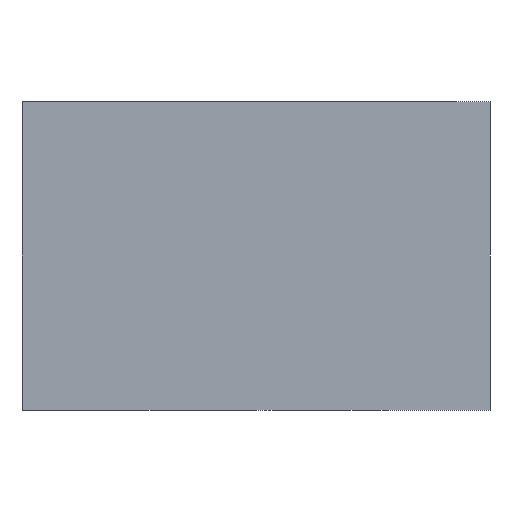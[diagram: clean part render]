
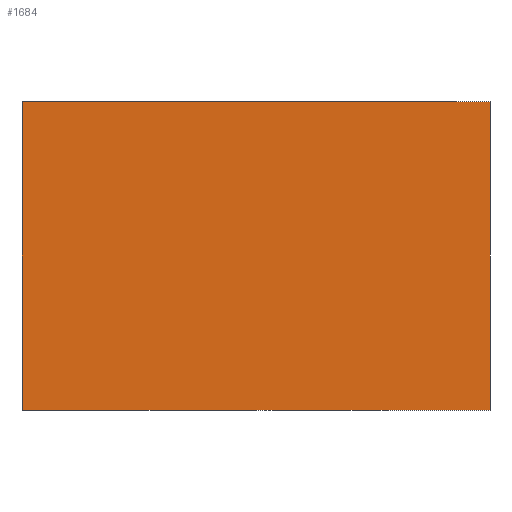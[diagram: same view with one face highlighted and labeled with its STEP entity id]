
A CAD part, front view. The second image highlights one B-rep face of the part: STEP entity #1684.
In plain terms, the highlighted planar face has unit normal (0, -1, 0).
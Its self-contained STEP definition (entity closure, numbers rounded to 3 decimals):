
#75=PLANE('',#1879);
#177=FACE_OUTER_BOUND('',#281,.T.);
#281=EDGE_LOOP('',(#1518,#1519,#1520,#1521));
#432=LINE('',#2909,#585);
#437=LINE('',#2917,#590);
#440=LINE('',#2925,#593);
#441=LINE('',#2926,#594);
#585=VECTOR('',#2355,10.);
#590=VECTOR('',#2362,10.);
#593=VECTOR('',#2371,10.);
#594=VECTOR('',#2372,10.);
#830=VERTEX_POINT('',#2905);
#832=VERTEX_POINT('',#2908);
#834=VERTEX_POINT('',#2916);
#836=VERTEX_POINT('',#2924);
#1064=EDGE_CURVE('',#832,#830,#432,.T.);
#1069=EDGE_CURVE('',#834,#832,#437,.T.);
#1072=EDGE_CURVE('',#836,#830,#440,.T.);
#1073=EDGE_CURVE('',#834,#836,#441,.T.);
#1518=ORIENTED_EDGE('',*,*,#1064,.T.);
#1519=ORIENTED_EDGE('',*,*,#1072,.F.);
#1520=ORIENTED_EDGE('',*,*,#1073,.F.);
#1521=ORIENTED_EDGE('',*,*,#1069,.T.);
#1684=ADVANCED_FACE('',(#177),#75,.T.);
#1879=AXIS2_PLACEMENT_3D('',#2923,#2369,#2370);
#2355=DIRECTION('',(-1.,0.,0.));
#2362=DIRECTION('',(0.,0.,1.));
#2369=DIRECTION('center_axis',(0.,-1.,0.));
#2370=DIRECTION('ref_axis',(0.,0.,-1.));
#2371=DIRECTION('',(0.,0.,1.));
#2372=DIRECTION('',(-1.,0.,0.));
#2905=CARTESIAN_POINT('',(-6.825,-10.,9.));
#2908=CARTESIAN_POINT('',(6.825,-10.,9.));
#2909=CARTESIAN_POINT('',(6.825,-10.,9.));
#2916=CARTESIAN_POINT('',(6.825,-10.,0.));
#2917=CARTESIAN_POINT('',(6.825,-10.,0.));
#2923=CARTESIAN_POINT('Origin',(6.825,-10.,0.));
#2924=CARTESIAN_POINT('',(-6.825,-10.,0.));
#2925=CARTESIAN_POINT('',(-6.825,-10.,0.));
#2926=CARTESIAN_POINT('',(6.825,-10.,0.));
